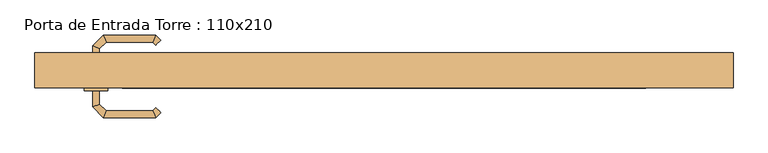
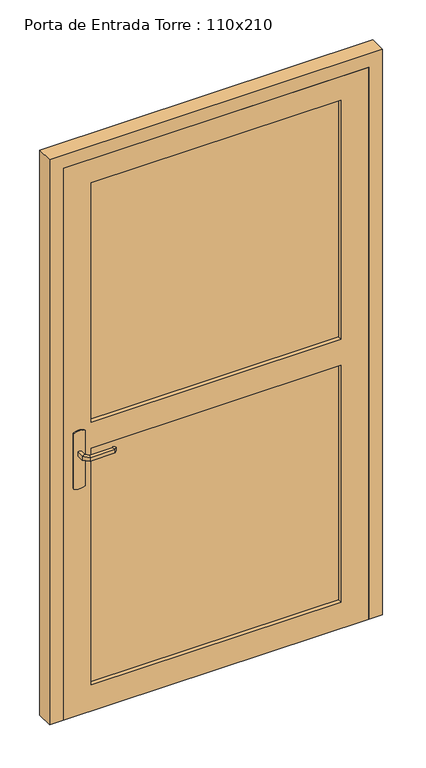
"""IFC4 building model written with IfcOpenShell, lengths in millimetres: door geometry, Porta de Entrada Torre : 110x210."""

from ifc_helpers import new_model, si_unit, point, frame, frame_2d, origin, place, context, project, spatial, polyline, circle_curve, ellipse_curve, trimmed, segment, composite_curve, outline, extrude, faceted_brep, source, transform, mapped, element, save
from ifc_brep_helpers import plane_surface, cylinder_surface, advanced_brep


def porta_de_entrada_torre_110x210_d7ea5157(model_context):
    return source(origin(), model_context, "Body", "SolidModel", [
        advanced_brep(
        [(-489.0, 27.0, 993.0), (-489.0, 27.0, 1007.0), (-501.0, 27.0, 1007.0), (-501.0, 27.0, 993.0), (-489.0, 49.4852045, 993.0), (-489.0, 49.4852045, 1007.0), (-501.0, 54.4557673, 1007.0), (-501.0, 54.4557673, 993.0), (-477.5147186, 60.9704859, 993.0), (-477.5147186, 60.9704859, 1007.0), (-482.4852814, 72.9704859, 1007.0), (-482.4852814, 72.9704859, 993.0), (-397.4394977, 60.9704859, 993.0), (-397.4394977, 60.9704859, 1007.0), (-392.468935, 72.9704859, 1007.0), (-392.468935, 72.9704859, 993.0), (-392.1257892, 55.6567774, 993.0), (-383.6405078, 64.1420588, 993.0), (-383.6405078, 64.1420588, 1007.0), (-392.1257892, 55.6567774, 1007.0)],
        [
            (0, 1),
            (1, 2, circle_curve(frame((-495.0, 27.0, 986.9542278), z_axis=(0.0, -1.0, 0.0), x_axis=(-1.0, 0.0, 0.0)), 20.9244589)),
            (2, 3),
            (3, 0, circle_curve(frame((-495.0, 27.0, 1013.0457722), z_axis=(0.0, -1.0, 0.0), x_axis=(-1.0, 0.0, 0.0)), 20.9244589)),
            (0, 4),
            (4, 5),
            (5, 1),
            (5, 6, ellipse_curve(frame((-495.0, 51.9704859, 986.9542278), z_axis=(-0.38268343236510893, -0.9238795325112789, 0.0), x_axis=(0.9238795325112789, -0.3826834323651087, 0.0)), 22.6484711, 20.9244589)),
            (6, 2),
            (6, 7),
            (7, 3),
            (7, 4, ellipse_curve(frame((-495.0, 51.9704859, 1013.0457722), z_axis=(-0.38268343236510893, -0.9238795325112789, 0.0), x_axis=(0.9238795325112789, -0.3826834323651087, 0.0)), 22.6484711, 20.9244589)),
            (4, 8),
            (8, 9),
            (9, 5),
            (9, 10, ellipse_curve(frame((-480.0, 66.9704859, 986.9542278), z_axis=(-0.9238795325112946, -0.38268343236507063, 0.0), x_axis=(0.3826834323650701, -0.9238795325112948, 0.0)), 22.6484711, 20.9244589)),
            (10, 6),
            (10, 11),
            (11, 7),
            (11, 8, ellipse_curve(frame((-480.0, 66.9704859, 1013.0457722), z_axis=(-0.9238795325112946, -0.38268343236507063, 0.0), x_axis=(0.3826834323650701, -0.9238795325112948, 0.0)), 22.6484711, 20.9244589)),
            (8, 12),
            (12, 13),
            (13, 9),
            (13, 14, ellipse_curve(frame((-394.9542163, 66.9704859, 986.9542278), z_axis=(-0.9238795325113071, 0.38268343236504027, 0.0), x_axis=(-0.38268343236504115, -0.9238795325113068, 0.0)), 22.6484711, 20.9244589)),
            (14, 10),
            (14, 15),
            (15, 11),
            (15, 12, ellipse_curve(frame((-394.9542163, 66.9704859, 1013.0457722), z_axis=(-0.9238795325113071, 0.38268343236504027, 0.0), x_axis=(-0.38268343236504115, -0.9238795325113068, 0.0)), 22.6484711, 20.9244589)),
            (16, 17, circle_curve(frame((-387.8831485, 59.8994181, 1013.0457722), z_axis=(0.7071067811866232, -0.7071067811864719, 0.0), x_axis=(0.7071067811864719, 0.7071067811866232, 0.0)), 20.9244589)),
            (17, 18),
            (18, 19, circle_curve(frame((-387.8831485, 59.8994181, 986.9542278), z_axis=(0.7071067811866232, -0.7071067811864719, 0.0), x_axis=(0.7071067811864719, 0.7071067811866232, 0.0)), 20.9244589)),
            (19, 16),
            (12, 16),
            (19, 13),
            (18, 14),
            (17, 15),
        ],
        [
            plane_surface(frame((-504.2195445, 27.0, 1000.0), z_axis=(0.0, -1.0, 0.0), x_axis=(0.0, 0.0, 1.0))),
            plane_surface(frame((-489.0, 27.0, 993.0), z_axis=(1.0, 0.0, 0.0), x_axis=(0.0, 1.0, 0.0))),
            cylinder_surface(frame((-495.0, 27.0, 986.9542278), z_axis=(0.0, -1.0, 0.0), x_axis=(-1.0, 0.0, 0.0)), 20.9244589),
            plane_surface(frame((-501.0, 27.0, 1007.0), z_axis=(-1.0, 0.0, 0.0), x_axis=(0.0, 1.0, 0.0))),
            cylinder_surface(frame((-495.0, 27.0, 1013.0457722), z_axis=(0.0, -1.0, 0.0), x_axis=(-1.0, 0.0, 0.0)), 20.9244589),
            plane_surface(frame((-489.0, 49.4852045, 993.0), z_axis=(0.7071067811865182, -0.707106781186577, 0.0), x_axis=(0.707106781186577, 0.7071067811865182, 0.0))),
            cylinder_surface(frame((-495.0, 51.9704859, 986.9542278), z_axis=(-0.7071067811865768, -0.7071067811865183, 0.0), x_axis=(-0.7071067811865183, 0.7071067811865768, 0.0)), 20.9244589),
            plane_surface(frame((-501.0, 54.4557673, 1007.0), z_axis=(-0.7071067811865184, 0.7071067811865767, 0.0), x_axis=(0.7071067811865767, 0.7071067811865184, 0.0))),
            cylinder_surface(frame((-495.0, 51.9704859, 1013.0457722), z_axis=(-0.7071067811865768, -0.7071067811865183, 0.0), x_axis=(-0.7071067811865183, 0.7071067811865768, 0.0)), 20.9244589),
            plane_surface(frame((-477.5147186, 60.9704859, 993.0), z_axis=(0.0, -1.0, 0.0), x_axis=(1.0, 0.0, 0.0))),
            cylinder_surface(frame((-480.0, 66.9704859, 986.9542278), z_axis=(-1.0, 0.0, 0.0), x_axis=(0.0, 1.0, 0.0)), 20.9244589),
            plane_surface(frame((-482.4852814, 72.9704859, 1007.0), z_axis=(0.0, 1.0, 0.0), x_axis=(1.0, 0.0, 0.0))),
            cylinder_surface(frame((-480.0, 66.9704859, 1013.0457722), z_axis=(-1.0, 0.0, 0.0), x_axis=(0.0, 1.0, 0.0)), 20.9244589),
            plane_surface(frame((-387.8831485, 59.8994181, 990.7804555), z_axis=(0.7071067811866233, -0.7071067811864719, 0.0), x_axis=(0.7071067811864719, 0.7071067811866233, 0.0))),
            plane_surface(frame((-397.4394977, 60.9704859, 993.0), z_axis=(-0.7071067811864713, -0.7071067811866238, 0.0), x_axis=(0.7071067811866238, -0.7071067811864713, 0.0))),
            cylinder_surface(frame((-394.9542163, 66.9704859, 986.9542278), z_axis=(-0.7071067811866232, 0.7071067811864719, 0.0), x_axis=(0.7071067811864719, 0.7071067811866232, 0.0)), 20.9244589),
            plane_surface(frame((-392.468935, 72.9704859, 1007.0), z_axis=(0.7071067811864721, 0.707106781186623, 0.0), x_axis=(0.707106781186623, -0.7071067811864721, 0.0))),
            cylinder_surface(frame((-394.9542163, 66.9704859, 1013.0457722), z_axis=(-0.7071067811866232, 0.7071067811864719, 0.0), x_axis=(0.7071067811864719, 0.7071067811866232, 0.0)), 20.9244589),
        ],
        [
            (0, [[1, 2, 3, 4]]),
            (1, [[-1, 5, 6, 7]]),
            (2, [[-2, -7, 8, 9]]),
            (3, [[-3, -9, 10, 11]]),
            (4, [[-4, -11, 12, -5]]),
            (5, [[-6, 13, 14, 15]]),
            (6, [[-8, -15, 16, 17]]),
            (7, [[-10, -17, 18, 19]]),
            (8, [[-12, -19, 20, -13]]),
            (9, [[-14, 21, 22, 23]]),
            (10, [[-16, -23, 24, 25]]),
            (11, [[-18, -25, 26, 27]]),
            (12, [[-20, -27, 28, -21]]),
            (13, [[29, 30, 31, 32]]),
            (14, [[-22, 33, -32, 34]]),
            (15, [[-24, -34, -31, 35]]),
            (16, [[-26, -35, -30, 36]]),
            (17, [[-28, -36, -29, -33]]),
        ],
    ),
        advanced_brep(
        [(-501.0, -23.0, 1007.0), (-489.0, -23.0, 1007.0), (-489.0, -23.0, 993.0), (-501.0, -23.0, 993.0), (-501.0, -50.6509507, 1007.0), (-489.0, -45.680388, 1007.0), (-489.0, -45.680388, 993.0), (-501.0, -50.6509507, 993.0), (-482.62279, -69.0281607, 1007.0), (-477.6522273, -57.0281607, 1007.0), (-477.6522273, -57.0281607, 993.0), (-482.62279, -69.0281607, 993.0), (-392.496078, -69.0281607, 1007.0), (-397.4666408, -57.0281607, 1007.0), (-397.4666408, -57.0281607, 993.0), (-392.496078, -69.0281607, 993.0), (-383.6676509, -60.1997336, 1007.0), (-383.6676509, -60.1997336, 993.0), (-392.1529323, -51.7144522, 993.0), (-392.1529323, -51.7144522, 1007.0)],
        [
            (0, 1, circle_curve(frame((-495.0, -23.0, 986.9542278), z_axis=(0.0, 1.0, 0.0), x_axis=(1.0, 0.0, 0.0)), 20.9244589)),
            (1, 2),
            (2, 3, circle_curve(frame((-495.0, -23.0, 1013.0457722), z_axis=(0.0, 1.0, 0.0), x_axis=(1.0, 0.0, 0.0)), 20.9244589)),
            (3, 0),
            (0, 4),
            (4, 5, ellipse_curve(frame((-495.0, -48.1656693, 986.9542278), z_axis=(-0.3826834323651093, 0.9238795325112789, 0.0), x_axis=(0.9238795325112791, 0.38268343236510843, 0.0)), 22.6484711, 20.9244589)),
            (5, 1),
            (5, 6),
            (6, 2),
            (6, 7, ellipse_curve(frame((-495.0, -48.1656693, 1013.0457722), z_axis=(-0.3826834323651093, 0.9238795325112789, 0.0), x_axis=(0.9238795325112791, 0.38268343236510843, 0.0)), 22.6484711, 20.9244589)),
            (7, 3),
            (7, 4),
            (4, 8),
            (8, 9, ellipse_curve(frame((-480.1375086, -63.0281607, 986.9542278), z_axis=(-0.9238795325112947, 0.38268343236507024, 0.0), x_axis=(0.3826834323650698, 0.9238795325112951, 0.0)), 22.6484711, 20.9244589)),
            (9, 5),
            (9, 10),
            (10, 6),
            (10, 11, ellipse_curve(frame((-480.1375086, -63.0281607, 1013.0457722), z_axis=(-0.9238795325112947, 0.38268343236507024, 0.0), x_axis=(0.3826834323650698, 0.9238795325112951, 0.0)), 22.6484711, 20.9244589)),
            (11, 7),
            (11, 8),
            (8, 12),
            (12, 13, ellipse_curve(frame((-394.9813594, -63.0281607, 986.9542278), z_axis=(-0.9238795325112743, -0.3826834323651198, 0.0), x_axis=(-0.38268343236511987, 0.9238795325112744, 0.0)), 22.6484711, 20.9244589)),
            (13, 9),
            (13, 14),
            (14, 10),
            (14, 15, ellipse_curve(frame((-394.9813594, -63.0281607, 1013.0457722), z_axis=(-0.9238795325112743, -0.3826834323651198, 0.0), x_axis=(-0.38268343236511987, 0.9238795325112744, 0.0)), 22.6484711, 20.9244589)),
            (15, 11),
            (15, 12),
            (16, 17),
            (17, 18, circle_curve(frame((-387.9102916, -55.9570929, 1013.0457722), z_axis=(0.7071067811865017, 0.7071067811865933, 0.0), x_axis=(-0.7071067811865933, 0.7071067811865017, 0.0)), 20.9244589)),
            (18, 19),
            (19, 16, circle_curve(frame((-387.9102916, -55.9570929, 986.9542278), z_axis=(0.7071067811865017, 0.7071067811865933, 0.0), x_axis=(-0.7071067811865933, 0.7071067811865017, 0.0)), 20.9244589)),
            (12, 16),
            (19, 13),
            (18, 14),
            (17, 15),
        ],
        [
            plane_surface(frame((-504.2195445, -23.0, 1000.0), z_axis=(0.0, 1.0, 0.0), x_axis=(0.0, 0.0, -1.0))),
            cylinder_surface(frame((-495.0, -23.0, 986.9542278), z_axis=(0.0, 1.0, 0.0), x_axis=(1.0, 0.0, 0.0)), 20.9244589),
            plane_surface(frame((-489.0, -23.0, 1007.0), z_axis=(1.0, 0.0, 0.0), x_axis=(0.0, -1.0, 0.0))),
            cylinder_surface(frame((-495.0, -23.0, 1013.0457722), z_axis=(0.0, 1.0, 0.0), x_axis=(1.0, 0.0, 0.0)), 20.9244589),
            plane_surface(frame((-501.0, -23.0, 993.0), z_axis=(-1.0, 0.0, 0.0), x_axis=(0.0, -1.0, 0.0))),
            cylinder_surface(frame((-495.0, -48.1656693, 986.9542278), z_axis=(-0.7071067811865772, 0.7071067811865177, 0.0), x_axis=(0.7071067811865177, 0.7071067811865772, 0.0)), 20.9244589),
            plane_surface(frame((-489.0, -45.680388, 1007.0), z_axis=(0.707106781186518, 0.7071067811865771, 0.0), x_axis=(0.7071067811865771, -0.707106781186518, 0.0))),
            cylinder_surface(frame((-495.0, -48.1656693, 1013.0457722), z_axis=(-0.7071067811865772, 0.7071067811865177, 0.0), x_axis=(0.7071067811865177, 0.7071067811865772, 0.0)), 20.9244589),
            plane_surface(frame((-501.0, -50.6509507, 993.0), z_axis=(-0.7071067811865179, -0.7071067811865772, 0.0), x_axis=(0.7071067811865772, -0.7071067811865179, 0.0))),
            cylinder_surface(frame((-480.1375086, -63.0281607, 986.9542278), z_axis=(-1.0, 0.0, 0.0), x_axis=(0.0, 1.0, 0.0)), 20.9244589),
            plane_surface(frame((-477.6522273, -57.0281607, 1007.0), z_axis=(0.0, 1.0, 0.0), x_axis=(1.0, 0.0, 0.0))),
            cylinder_surface(frame((-480.1375086, -63.0281607, 1013.0457722), z_axis=(-1.0, 0.0, 0.0), x_axis=(0.0, 1.0, 0.0)), 20.9244589),
            plane_surface(frame((-482.62279, -69.0281607, 993.0), z_axis=(0.0, -1.0, 0.0), x_axis=(1.0, 0.0, 0.0))),
            plane_surface(frame((-387.9102916, -55.9570929, 1009.2195445), z_axis=(0.7071067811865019, 0.7071067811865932, 0.0), x_axis=(0.7071067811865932, -0.7071067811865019, 0.0))),
            cylinder_surface(frame((-394.9813594, -63.0281607, 986.9542278), z_axis=(-0.7071067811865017, -0.7071067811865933, 0.0), x_axis=(-0.7071067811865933, 0.7071067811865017, 0.0)), 20.9244589),
            plane_surface(frame((-397.4666408, -57.0281607, 1007.0), z_axis=(-0.7071067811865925, 0.7071067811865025, 0.0), x_axis=(0.7071067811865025, 0.7071067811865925, 0.0))),
            cylinder_surface(frame((-394.9813594, -63.0281607, 1013.0457722), z_axis=(-0.7071067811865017, -0.7071067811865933, 0.0), x_axis=(-0.7071067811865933, 0.7071067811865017, 0.0)), 20.9244589),
            plane_surface(frame((-392.496078, -69.0281607, 993.0), z_axis=(0.7071067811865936, -0.7071067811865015, 0.0), x_axis=(0.7071067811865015, 0.7071067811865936, 0.0))),
        ],
        [
            (0, [[1, 2, 3, 4]]),
            (1, [[-1, 5, 6, 7]]),
            (2, [[-2, -7, 8, 9]]),
            (3, [[-3, -9, 10, 11]]),
            (4, [[-4, -11, 12, -5]]),
            (5, [[-6, 13, 14, 15]]),
            (6, [[-8, -15, 16, 17]]),
            (7, [[-10, -17, 18, 19]]),
            (8, [[-12, -19, 20, -13]]),
            (9, [[-14, 21, 22, 23]]),
            (10, [[-16, -23, 24, 25]]),
            (11, [[-18, -25, 26, 27]]),
            (12, [[-20, -27, 28, -21]]),
            (13, [[29, 30, 31, 32]]),
            (14, [[-22, 33, -32, 34]]),
            (15, [[-24, -34, -31, 35]]),
            (16, [[-26, -35, -30, 36]]),
            (17, [[-28, -36, -29, -33]]),
        ],
    ),
        extrude(outline(composite_curve([segment(trimmed(circle_curve(frame_2d((1045.3589838, -495.0)), 40.0), [point((1080.0, -475.0))], [point((1080.0, -515.0))], False, "CARTESIAN"), True, "CONTINUOUS"), segment(polyline([(1080.0, -515.0), (870.0, -515.0)]), True, "CONTINUOUS"), segment(trimmed(circle_curve(frame_2d((904.6410162, -495.0)), 40.0), [point((870.0, -515.0))], [point((870.0, -475.0))], False, "CARTESIAN"), True, "CONTINUOUS"), segment(polyline([(870.0, -475.0), (1080.0, -475.0)]), True, "CONTINUOUS")], self_intersect=False)), frame((0.0, 22.0, 0.0), z_axis=(0.0, 1.0, 0.0), x_axis=(0.0, 0.0, 1.0)), (0.0, 0.0, 1.0), 5.0),
        extrude(outline(composite_curve([segment(trimmed(circle_curve(frame_2d((904.6410162, -495.0)), 40.0), [point((870.0, -515.0))], [point((870.0, -475.0))], False, "CARTESIAN"), True, "CONTINUOUS"), segment(polyline([(870.0, -475.0), (1080.0, -475.0)]), True, "CONTINUOUS"), segment(trimmed(circle_curve(frame_2d((1045.3589838, -495.0)), 40.0), [point((1080.0, -475.0))], [point((1080.0, -515.0))], False, "CARTESIAN"), True, "CONTINUOUS"), segment(polyline([(1080.0, -515.0), (870.0, -515.0)]), True, "CONTINUOUS")], self_intersect=False)), frame((0.0, -23.0, 0.0), z_axis=(0.0, 1.0, 0.0), x_axis=(0.0, 0.0, 1.0)), (0.0, 0.0, 1.0), 5.0),
        faceted_brep([(-600.0, -18.0, 0.0), (-600.0, 42.0, 0.0), (-535.0, 42.0, 0.0), (-535.0, 22.0, 0.0), (-550.0, 22.0, 0.0), (-550.0, -18.0, 0.0), (-600.0, -18.0, 2150.0), (-600.0, 42.0, 2150.0), (600.0, 42.0, 2150.0), (600.0, 42.0, 0.0), (535.0, 42.0, 0.0), (535.0, 42.0, 2085.0), (-535.0, 42.0, 2085.0), (-535.0, 22.0, 2085.0), (535.0, 22.0, 2085.0), (535.0, 22.0, 0.0), (550.0, 22.0, 0.0), (550.0, 22.0, 2100.0), (-550.0, 22.0, 2100.0), (-550.0, -18.0, 2100.0), (550.0, -18.0, 2100.0), (550.0, -18.0, 0.0), (600.0, -18.0, 0.0), (600.0, -18.0, 2150.0)], [[[0, 1, 2, 3, 4, 5]], [[1, 0, 6, 7]], [[2, 1, 7, 8, 9, 10, 11, 12]], [[3, 2, 12, 13]], [[4, 3, 13, 14, 15, 16, 17, 18]], [[5, 4, 18, 19]], [[0, 5, 19, 20, 21, 22, 23, 6]], [[8, 23, 22, 9]], [[22, 21, 16, 15, 10, 9]], [[14, 11, 10, 15]], [[20, 17, 16, 21]], [[7, 6, 23, 8]], [[13, 12, 11, 14]], [[19, 18, 17, 20]]]),
        extrude(outline(polyline([(450.0, -3.0), (-450.0, -3.0), (-450.0, 7.0), (450.0, 7.0), (450.0, -3.0)])), frame((0.0, 0.0, 1100.0), z_axis=(0.0, 0.0, 1.0), x_axis=(1.0, 0.0, 0.0)), (0.0, 0.0, 1.0), 910.0),
        extrude(outline(polyline([(450.0, -3.0), (-450.0, -3.0), (-450.0, 7.0), (450.0, 7.0), (450.0, -3.0)])), frame((0.0, 0.0, 100.0), z_axis=(0.0, 0.0, 1.0), x_axis=(1.0, 0.0, 0.0)), (0.0, 0.0, 1.0), 900.0),
        extrude(outline(polyline([(2100.0, -550.0), (0.0, -550.0), (0.0, 550.0), (2100.0, 550.0), (2100.0, -550.0)]), holes=[polyline([(2010.0, 450.0), (1100.0, 450.0), (1100.0, -450.0), (2010.0, -450.0), (2010.0, 450.0)]), polyline([(100.0, 450.0), (100.0, -450.0), (1000.0, -450.0), (1000.0, 450.0), (100.0, 450.0)])]), frame((0.0, -18.0, 0.0), z_axis=(0.0, 1.0, 0.0), x_axis=(0.0, 0.0, 1.0)), (0.0, 0.0, 1.0), 40.0),
    ])


if __name__ == "__main__":
    model = new_model("IFC4")
    model_context = context("Model", 3, world=origin())
    ifc_project = project(units=[si_unit("LENGTHUNIT", "METRE", prefix="MILLI")], contexts=[model_context])
    site = spatial("IfcSite", under=ifc_project)
    building = spatial("IfcBuilding", under=site)
    placement = place(None, origin())
    porta_de_entrada_torre_110x210_shape = porta_de_entrada_torre_110x210_d7ea5157(model_context)
    element("IfcDoor", 1, ObjectType="Porta de Entrada Torre : 110x210", at=placement, inside=building, context=model_context, shape_type="MappedRepresentation", body=[
        mapped(porta_de_entrada_torre_110x210_shape, transform((0.0, 0.0, 0.0), x_axis=(1.0, 0.0, 0.0), y_axis=(0.0, 1.0, 0.0), z_axis=(0.0, 0.0, 1.0))),
    ])
    save(model, "model.ifc")
